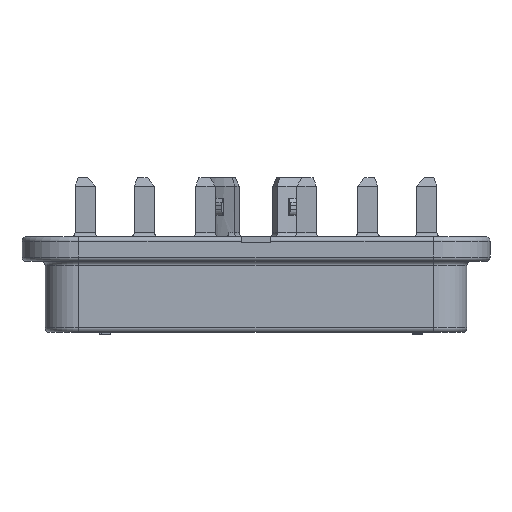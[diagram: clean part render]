
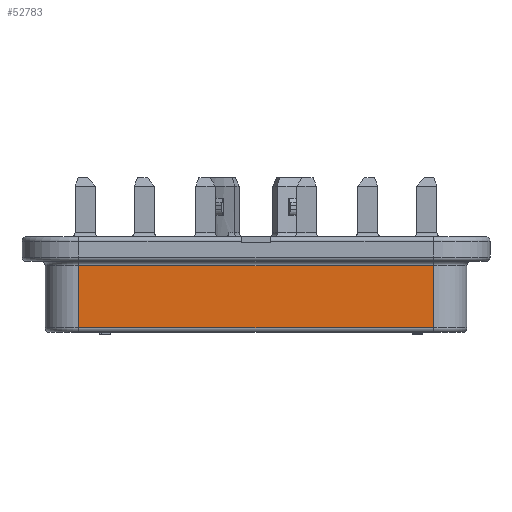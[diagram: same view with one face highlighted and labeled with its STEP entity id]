
A CAD part, front view. The second image highlights one B-rep face of the part: STEP entity #52783.
In plain terms, the highlighted planar face has unit normal (0, -1, 0).
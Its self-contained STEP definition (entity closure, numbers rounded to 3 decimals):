
#19035=DIRECTION('',(-1.,0.,0.));
#19036=VECTOR('',#19035,41.808);
#19037=CARTESIAN_POINT('',(20.904,-24.867,-10.744));
#19038=LINE('',#19037,#19036);
#19039=DIRECTION('',(-1.,0.,0.));
#19040=VECTOR('',#19039,41.808);
#19041=CARTESIAN_POINT('',(20.904,-24.867,-3.404));
#19042=LINE('',#19041,#19040);
#19043=DIRECTION('',(0.,0.,-1.));
#19044=VECTOR('',#19043,7.341);
#19045=CARTESIAN_POINT('',(20.904,-24.867,-3.404));
#19046=LINE('',#19045,#19044);
#19057=DIRECTION('',(0.,0.,-1.));
#19058=VECTOR('',#19057,7.341);
#19059=CARTESIAN_POINT('',(-20.904,-24.867,-3.404));
#19060=LINE('',#19059,#19058);
#25903=CARTESIAN_POINT('',(20.904,-24.867,-3.404));
#25904=VERTEX_POINT('',#25903);
#25907=CARTESIAN_POINT('',(-20.904,-24.867,-3.404));
#25908=VERTEX_POINT('',#25907);
#26054=CARTESIAN_POINT('',(20.904,-24.867,-10.744));
#26056=VERTEX_POINT('',#26054);
#26059=CARTESIAN_POINT('',(-20.904,-24.867,-10.744));
#26060=VERTEX_POINT('',#26059);
#52770=CARTESIAN_POINT('',(20.904,-24.867,-2.896));
#52771=DIRECTION('',(0.,-1.,0.));
#52772=DIRECTION('',(-1.,0.,0.));
#52773=AXIS2_PLACEMENT_3D('',#52770,#52771,#52772);
#52774=PLANE('',#52773);
#52775=ORIENTED_EDGE('',*,*,#52652,.T.);
#52777=ORIENTED_EDGE('',*,*,#52776,.F.);
#52779=ORIENTED_EDGE('',*,*,#52778,.F.);
#52780=ORIENTED_EDGE('',*,*,#52762,.T.);
#52781=EDGE_LOOP('',(#52775,#52777,#52779,#52780));
#52782=FACE_OUTER_BOUND('',#52781,.F.);
#52783=ADVANCED_FACE('',(#52782),#52774,.T.);
#52652=EDGE_CURVE('',#26056,#26060,#19038,.T.);
#52762=EDGE_CURVE('',#25904,#26056,#19046,.T.);
#52776=EDGE_CURVE('',#25908,#26060,#19060,.T.);
#52778=EDGE_CURVE('',#25904,#25908,#19042,.T.);
